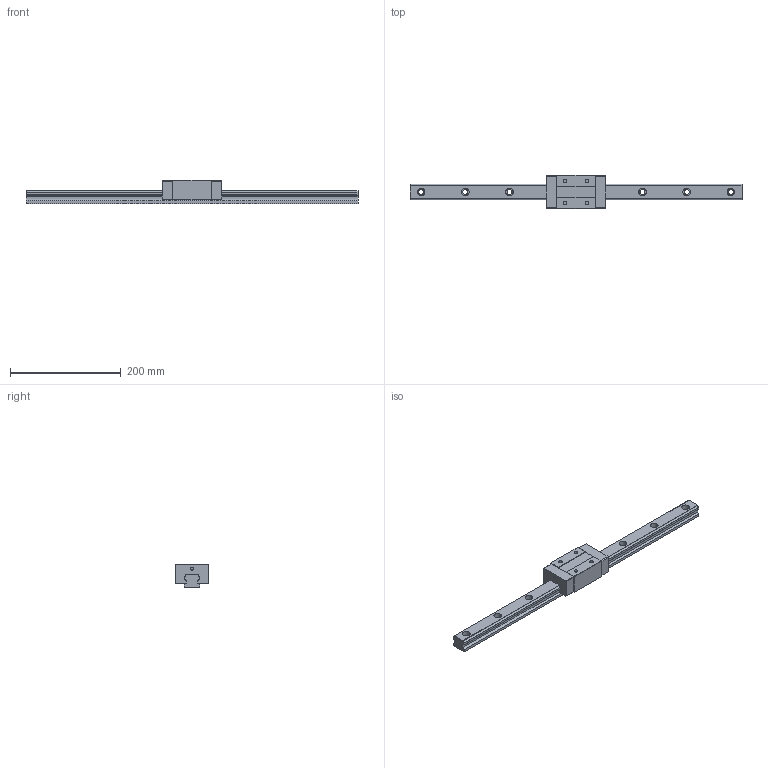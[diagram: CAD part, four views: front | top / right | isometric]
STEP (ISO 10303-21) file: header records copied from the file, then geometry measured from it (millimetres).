
FILE_DESCRIPTION (( 'STEP AP203' ), '1' );
FILE_NAME ('TRS30VN-WW-§ï.STEP', '2023-08-31T06:37:20', ( '' ), ( '' ), 'SwSTEP 2.0', 'SolidWorks 2022', '' );
FILE_SCHEMA (( 'CONFIG_CONTROL_DESIGN' ));
Length unit declared in the file: millimetre
Products named in the file (1): TRS30VN-WW-改
Bounding box: 600 x 60 x 42 mm (x, y, z)
Volume: 500697.7 mm3; surface area: 94464.9 mm2
Topology: 1 solids, 1 shells, 164 faces, 448 edges, 296 vertices
Faces by surface type: plane 84, cylinder 80
Entity records: 5345 total; most frequent: DIRECTION 942, CARTESIAN_POINT 909, ORIENTED_EDGE 896, EDGE_CURVE 448, AXIS2_PLACEMENT_3D 329, VERTEX_POINT 296, LINE 284, VECTOR 284
